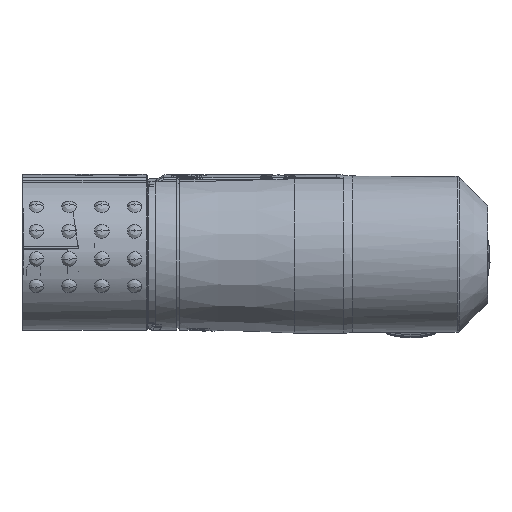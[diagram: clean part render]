
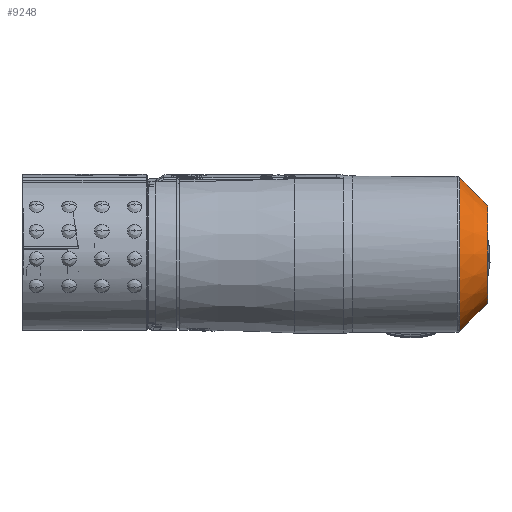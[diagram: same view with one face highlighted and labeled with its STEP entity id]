
A CAD part, top view. The second image highlights one B-rep face of the part: STEP entity #9248.
In plain terms, the highlighted conical face has half-angle 45 degrees and reference radius 6.75 mm.
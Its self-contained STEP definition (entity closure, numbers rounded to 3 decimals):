
#881 = AXIS2_PLACEMENT_3D ( 'NONE', #19518, #34220, #53347 ) ;
#2567 = CARTESIAN_POINT ( 'NONE',  ( 10.519, 0., 24.439 ) ) ;
#5884 = CIRCLE ( 'NONE', #881, 10.604 ) ;
#9248 = ADVANCED_FACE ( 'NONE', ( #54150 ), #21780, .T. ) ;
#11765 = VERTEX_POINT ( 'NONE', #36261 ) ;
#12640 = EDGE_CURVE ( 'NONE', #27607, #41950, #5884, .T. ) ;
#14174 = CARTESIAN_POINT ( 'NONE',  ( 10.519, -5.937, 21.228 ) ) ;
#15722 = CARTESIAN_POINT ( 'NONE',  ( 6.665, -9.326, 19.394 ) ) ;
#17906 = DIRECTION ( 'NONE',  ( 1., 0., 0. ) ) ;
#19134 = EDGE_LOOP ( 'NONE', ( #20736, #27316, #55657, #35958 ) ) ;
#19518 = CARTESIAN_POINT ( 'NONE',  ( 6.665, 0., 24.439 ) ) ;
#20409 = CARTESIAN_POINT ( 'NONE',  ( 10.519, -5.937, 21.228 ) ) ;
#20736 = ORIENTED_EDGE ( 'NONE', *, *, #39129, .F. ) ;
#21780 = CONICAL_SURFACE ( 'NONE', #54760, 6.75, 0.785 ) ;
#22960 = CIRCLE ( 'NONE', #25957, 6.75 ) ;
#25697 = CARTESIAN_POINT ( 'NONE',  ( 7.95, -8.196, 20.005 ) ) ;
#25957 = AXIS2_PLACEMENT_3D ( 'NONE', #33491, #17906, #36977 ) ;
#27316 = ORIENTED_EDGE ( 'NONE', *, *, #12640, .T. ) ;
#27607 = VERTEX_POINT ( 'NONE', #55335 ) ;
#28845 = CARTESIAN_POINT ( 'NONE',  ( 6.665, 9.326, 19.394 ) ) ;
#31913 = B_SPLINE_CURVE_WITH_KNOTS ( 'NONE', 1,
 ( #28845, #47937 ),
 .UNSPECIFIED., .F., .F.,
 ( 2, 2 ),
 ( 0.037, 1. ),
 .UNSPECIFIED. ) ;
#33491 = CARTESIAN_POINT ( 'NONE',  ( 10.519, 0., 24.439 ) ) ;
#34220 = DIRECTION ( 'NONE',  ( 1., 0., 0. ) ) ;
#34769 = CARTESIAN_POINT ( 'NONE',  ( 9.235, -7.067, 20.616 ) ) ;
#35335 = DIRECTION ( 'NONE',  ( -1., 0., 0. ) ) ;
#35958 = ORIENTED_EDGE ( 'NONE', *, *, #42417, .F. ) ;
#36261 = CARTESIAN_POINT ( 'NONE',  ( 10.519, 5.937, 21.228 ) ) ;
#36977 = DIRECTION ( 'NONE',  ( 0., 0., 1. ) ) ;
#38288 = VERTEX_POINT ( 'NONE', #14174 ) ;
#39129 = EDGE_CURVE ( 'NONE', #27607, #11765, #31913, .T. ) ;
#39203 = EDGE_CURVE ( 'NONE', #41950, #38288, #39509, .T. ) ;
#39509 = B_SPLINE_CURVE_WITH_KNOTS ( 'NONE', 3,
 ( #15722, #25697, #34769, #20409 ),
 .UNSPECIFIED., .F., .F.,
 ( 4, 4 ),
 ( 0.037, 1. ),
 .UNSPECIFIED. ) ;
#41950 = VERTEX_POINT ( 'NONE', #54880 ) ;
#42417 = EDGE_CURVE ( 'NONE', #11765, #38288, #22960, .T. ) ;
#47937 = CARTESIAN_POINT ( 'NONE',  ( 10.519, 5.937, 21.228 ) ) ;
#49425 = DIRECTION ( 'NONE',  ( 0., 0., 1. ) ) ;
#53347 = DIRECTION ( 'NONE',  ( 0., 0., -1. ) ) ;
#54150 = FACE_OUTER_BOUND ( 'NONE', #19134, .T. ) ;
#54760 = AXIS2_PLACEMENT_3D ( 'NONE', #2567, #35335, #49425 ) ;
#54880 = CARTESIAN_POINT ( 'NONE',  ( 6.665, -9.326, 19.394 ) ) ;
#55335 = CARTESIAN_POINT ( 'NONE',  ( 6.665, 9.326, 19.394 ) ) ;
#55657 = ORIENTED_EDGE ( 'NONE', *, *, #39203, .T. ) ;
